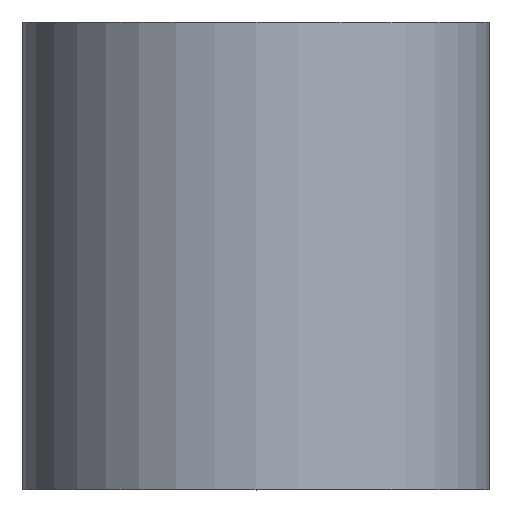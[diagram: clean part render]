
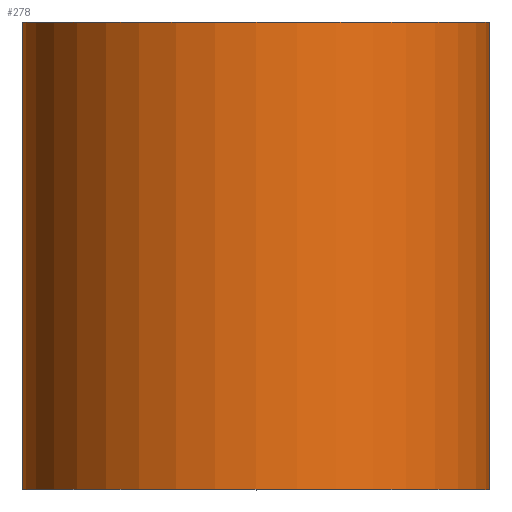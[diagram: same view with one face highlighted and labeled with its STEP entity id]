
A CAD part, top view. The second image highlights one B-rep face of the part: STEP entity #278.
In plain terms, the highlighted cylindrical face has radius 4 mm (diameter 8 mm), a partial arc.
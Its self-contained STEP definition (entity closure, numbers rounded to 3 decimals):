
#7 = EDGE_CURVE ( 'NONE', #141, #137, #95, .T. ) ;
#14 = CARTESIAN_POINT ( 'NONE',  ( -4., 0., 0. ) ) ;
#15 = CIRCLE ( 'NONE', #244, 4. ) ;
#17 = ORIENTED_EDGE ( 'NONE', *, *, #115, .F. ) ;
#34 = DIRECTION ( 'NONE',  ( -1., 0., 0. ) ) ;
#35 = ORIENTED_EDGE ( 'NONE', *, *, #119, .T. ) ;
#45 = CARTESIAN_POINT ( 'NONE',  ( 0., 0., 0. ) ) ;
#47 = DIRECTION ( 'NONE',  ( 0., 1., 0. ) ) ;
#60 = FACE_OUTER_BOUND ( 'NONE', #133, .T. ) ;
#61 = DIRECTION ( 'NONE',  ( 0., 1., 0. ) ) ;
#83 = DIRECTION ( 'NONE',  ( 0., 1., 0. ) ) ;
#91 = LINE ( 'NONE', #203, #256 ) ;
#92 = DIRECTION ( 'NONE',  ( 0., 1., 0. ) ) ;
#95 = CIRCLE ( 'NONE', #215, 4. ) ;
#111 = CARTESIAN_POINT ( 'NONE',  ( 4., 0., 0. ) ) ;
#115 = EDGE_CURVE ( 'NONE', #141, #156, #91, .T. ) ;
#119 = EDGE_CURVE ( 'NONE', #137, #165, #204, .T. ) ;
#131 = DIRECTION ( 'NONE',  ( 0., 1., 0. ) ) ;
#133 = EDGE_LOOP ( 'NONE', ( #279, #35, #299, #17 ) ) ;
#137 = VERTEX_POINT ( 'NONE', #227 ) ;
#140 = VECTOR ( 'NONE', #92, 1000. ) ;
#141 = VERTEX_POINT ( 'NONE', #14 ) ;
#156 = VERTEX_POINT ( 'NONE', #179 ) ;
#165 = VERTEX_POINT ( 'NONE', #285 ) ;
#171 = CYLINDRICAL_SURFACE ( 'NONE', #212, 4. ) ;
#179 = CARTESIAN_POINT ( 'NONE',  ( -4., 8., 0. ) ) ;
#192 = EDGE_CURVE ( 'NONE', #156, #165, #15, .T. ) ;
#201 = CARTESIAN_POINT ( 'NONE',  ( 0., 8., 0. ) ) ;
#203 = CARTESIAN_POINT ( 'NONE',  ( -4., 0., 0. ) ) ;
#204 = LINE ( 'NONE', #111, #140 ) ;
#212 = AXIS2_PLACEMENT_3D ( 'NONE', #45, #47, #295 ) ;
#215 = AXIS2_PLACEMENT_3D ( 'NONE', #258, #83, #34 ) ;
#220 = DIRECTION ( 'NONE',  ( -1., 0., 0. ) ) ;
#227 = CARTESIAN_POINT ( 'NONE',  ( 4., 0., 0. ) ) ;
#244 = AXIS2_PLACEMENT_3D ( 'NONE', #201, #61, #220 ) ;
#256 = VECTOR ( 'NONE', #131, 1000. ) ;
#258 = CARTESIAN_POINT ( 'NONE',  ( 0., 0., 0. ) ) ;
#278 = ADVANCED_FACE ( 'NONE', ( #60 ), #171, .T. ) ;
#279 = ORIENTED_EDGE ( 'NONE', *, *, #7, .T. ) ;
#285 = CARTESIAN_POINT ( 'NONE',  ( 4., 8., 0. ) ) ;
#295 = DIRECTION ( 'NONE',  ( -1., 0., 0. ) ) ;
#299 = ORIENTED_EDGE ( 'NONE', *, *, #192, .F. ) ;
